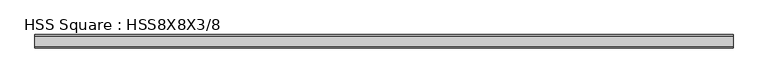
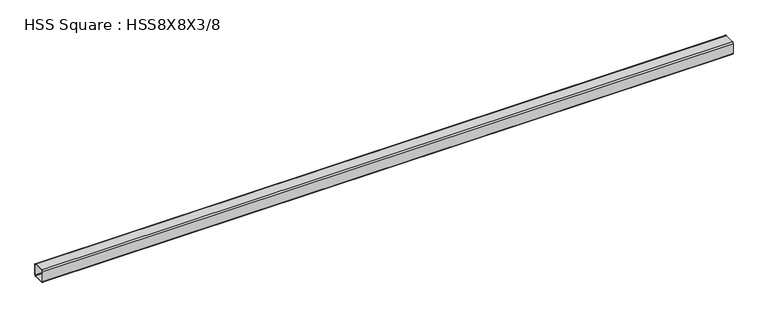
"""IFC4 building model written with IfcOpenShell, lengths in millimetres: beam geometry, HSS Square : HSS8X8X3/8."""

from ifc_helpers import new_model, si_unit, point, frame, frame_2d, origin, place, context, project, spatial, polyline, circle_curve, trimmed, segment, composite_curve, outline, extrude, source, transform, mapped, element, save


def hss_square_hss8x8x3_8_bad9dd2b(model_context):
    return source(origin(), model_context, "Body", "SweptSolid", [
        extrude(outline(composite_curve([segment(polyline([(101.6, 82.55), (101.6, -82.55)]), True, "CONTINUOUS"), segment(trimmed(circle_curve(frame_2d((82.55, -82.55)), 19.05), [point((101.6, -82.55))], [point((82.55, -101.6))], False, "CARTESIAN"), True, "CONTINUOUS"), segment(polyline([(82.55, -101.6), (-82.55, -101.6)]), True, "CONTINUOUS"), segment(trimmed(circle_curve(frame_2d((-82.55, -82.55)), 19.05), [point((-82.55, -101.6))], [point((-101.6, -82.55))], False, "CARTESIAN"), True, "CONTINUOUS"), segment(polyline([(-101.6, -82.55), (-101.6, 82.55)]), True, "CONTINUOUS"), segment(trimmed(circle_curve(frame_2d((-82.55, 82.55)), 19.05), [point((-101.6, 82.55))], [point((-82.55, 101.6))], False, "CARTESIAN"), True, "CONTINUOUS"), segment(polyline([(-82.55, 101.6), (82.55, 101.6)]), True, "CONTINUOUS"), segment(trimmed(circle_curve(frame_2d((82.55, 82.55)), 19.05), [point((82.55, 101.6))], [point((101.6, 82.55))], False, "CARTESIAN"), True, "CONTINUOUS")], self_intersect=False), holes=[composite_curve([segment(trimmed(circle_curve(frame_2d((-82.55, 82.55)), 9.525), [point((-82.55, 92.075))], [point((-92.075, 82.55))], True, "CARTESIAN"), True, "CONTINUOUS"), segment(polyline([(-92.075, 82.55), (-92.075, -82.55)]), True, "CONTINUOUS"), segment(trimmed(circle_curve(frame_2d((-82.55, -82.55)), 9.525), [point((-92.075, -82.55))], [point((-82.55, -92.075))], True, "CARTESIAN"), True, "CONTINUOUS"), segment(polyline([(-82.55, -92.075), (82.55, -92.075)]), True, "CONTINUOUS"), segment(trimmed(circle_curve(frame_2d((82.55, -82.55)), 9.525), [point((82.55, -92.075))], [point((92.075, -82.55))], True, "CARTESIAN"), True, "CONTINUOUS"), segment(polyline([(92.075, -82.55), (92.075, 82.55)]), True, "CONTINUOUS"), segment(trimmed(circle_curve(frame_2d((82.55, 82.55)), 9.525), [point((92.075, 82.55))], [point((82.55, 92.075))], True, "CARTESIAN"), True, "CONTINUOUS"), segment(polyline([(82.55, 92.075), (-82.55, 92.075)]), True, "CONTINUOUS")], self_intersect=False)]), frame((-5296.0524281, 0.0, 0.0), z_axis=(1.0, 0.0, 0.0), x_axis=(0.0, 1.0, 0.0)), (0.0, 0.0, 1.0), 10757.2048563),
    ])


if __name__ == "__main__":
    model = new_model("IFC4")
    model_context = context("Model", 3, world=origin())
    ifc_project = project(units=[si_unit("LENGTHUNIT", "METRE", prefix="MILLI")], contexts=[model_context])
    site = spatial("IfcSite", under=ifc_project)
    building = spatial("IfcBuilding", under=site)
    placement = place(None, origin())
    hss_square_hss8x8x3_8_shape = hss_square_hss8x8x3_8_bad9dd2b(model_context)
    element("IfcBeam", 1, ObjectType="HSS Square : HSS8X8X3/8", at=placement, inside=building, context=model_context, shape_type="MappedRepresentation", body=[
        mapped(hss_square_hss8x8x3_8_shape, transform((0.0, 0.0, 0.0), x_axis=(1.0, 0.0, 0.0), y_axis=(0.0, 1.0, 0.0), z_axis=(0.0, 0.0, 1.0))),
    ])
    save(model, "model.ifc")
